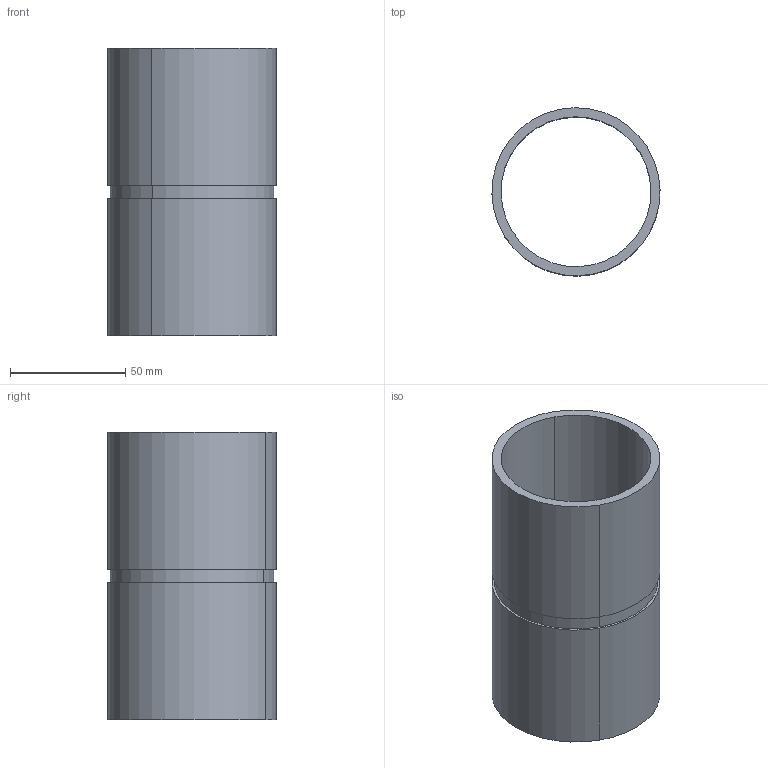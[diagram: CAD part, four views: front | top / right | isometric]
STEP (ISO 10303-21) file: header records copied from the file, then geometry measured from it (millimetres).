
FILE_DESCRIPTION(('CATIA V5 STEP Exchange'),'2;1');
FILE_NAME('C:\Users\Utente\Desktop\3D files 395H FCA\395H 19-232-0150.stp','2020-04-09T13:56:52+00:00',('none'),('none'),'CATIA Version 5 Release 20 GA (IN-10)','CATIA V5 STEP AP203','none');
FILE_SCHEMA(('CONFIG_CONTROL_DESIGN'));
Length unit declared in the file: millimetre
Products named in the file (1): 395H 19-232-0150
Bounding box: 72.98 x 72.98 x 125 mm (x, y, z)
Volume: 105750.5 mm3; surface area: 56360.2 mm2
Topology: 1 solids, 1 shells, 12 faces, 27 edges, 23 vertices
Faces by surface type: cylinder 8, plane 4
Entity records: 375 total; most frequent: CARTESIAN_POINT 61, ORIENTED_EDGE 48, DIRECTION 47, AXIS2_PLACEMENT_3D 27, EDGE_CURVE 24, CIRCLE 16, EDGE_LOOP 16, VERTEX_POINT 16
